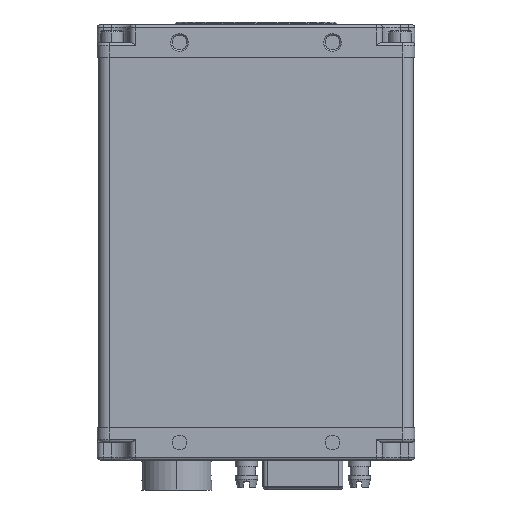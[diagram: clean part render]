
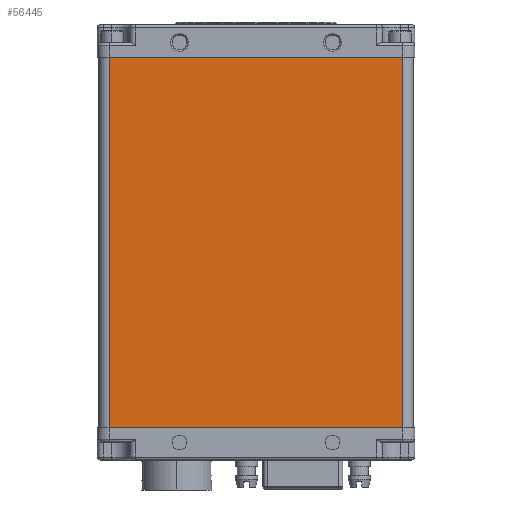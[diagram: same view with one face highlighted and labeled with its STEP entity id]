
A CAD part, front view. The second image highlights one B-rep face of the part: STEP entity #56445.
In plain terms, the highlighted planar face has unit normal (0, -1, 0).
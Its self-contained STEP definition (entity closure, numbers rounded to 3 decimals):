
#5813=DIRECTION('',(1.,0.,0.));
#5814=VECTOR('',#5813,50.);
#5815=CARTESIAN_POINT('',(-57.4,0.2,-69.));
#5816=LINE('',#5815,#5814);
#6655=DIRECTION('',(-1.,0.,0.));
#6656=VECTOR('',#6655,50.);
#6657=CARTESIAN_POINT('',(-7.4,0.2,-6.));
#6658=LINE('',#6657,#6656);
#10204=DIRECTION('',(0.,0.,1.));
#10205=VECTOR('',#10204,63.);
#10206=CARTESIAN_POINT('',(-7.4,0.2,-69.));
#10207=LINE('',#10206,#10205);
#10216=DIRECTION('',(0.,0.,-1.));
#10217=VECTOR('',#10216,63.);
#10218=CARTESIAN_POINT('',(-57.4,0.2,-6.));
#10219=LINE('',#10218,#10217);
#35774=CARTESIAN_POINT('',(-57.4,0.2,-69.));
#35775=VERTEX_POINT('',#35774);
#35776=CARTESIAN_POINT('',(-7.4,0.2,-69.));
#35777=VERTEX_POINT('',#35776);
#35997=CARTESIAN_POINT('',(-7.4,0.2,-6.));
#35998=VERTEX_POINT('',#35997);
#35999=CARTESIAN_POINT('',(-57.4,0.2,-6.));
#36000=VERTEX_POINT('',#35999);
#56433=CARTESIAN_POINT('',(-32.4,0.2,-37.5));
#56434=DIRECTION('',(0.,1.,0.));
#56435=DIRECTION('',(1.,0.,0.));
#56436=AXIS2_PLACEMENT_3D('',#56433,#56434,#56435);
#56437=PLANE('',#56436);
#56438=ORIENTED_EDGE('',*,*,#49031,.F.);
#56440=ORIENTED_EDGE('',*,*,#56439,.F.);
#56441=ORIENTED_EDGE('',*,*,#50486,.F.);
#56442=ORIENTED_EDGE('',*,*,#56419,.F.);
#56443=EDGE_LOOP('',(#56438,#56440,#56441,#56442));
#56444=FACE_OUTER_BOUND('',#56443,.F.);
#49031=EDGE_CURVE('',#35775,#35777,#5816,.T.);
#50486=EDGE_CURVE('',#35998,#36000,#6658,.T.);
#56419=EDGE_CURVE('',#35777,#35998,#10207,.T.);
#56439=EDGE_CURVE('',#36000,#35775,#10219,.T.);
#56445=ADVANCED_FACE('',(#56444),#56437,.F.);
